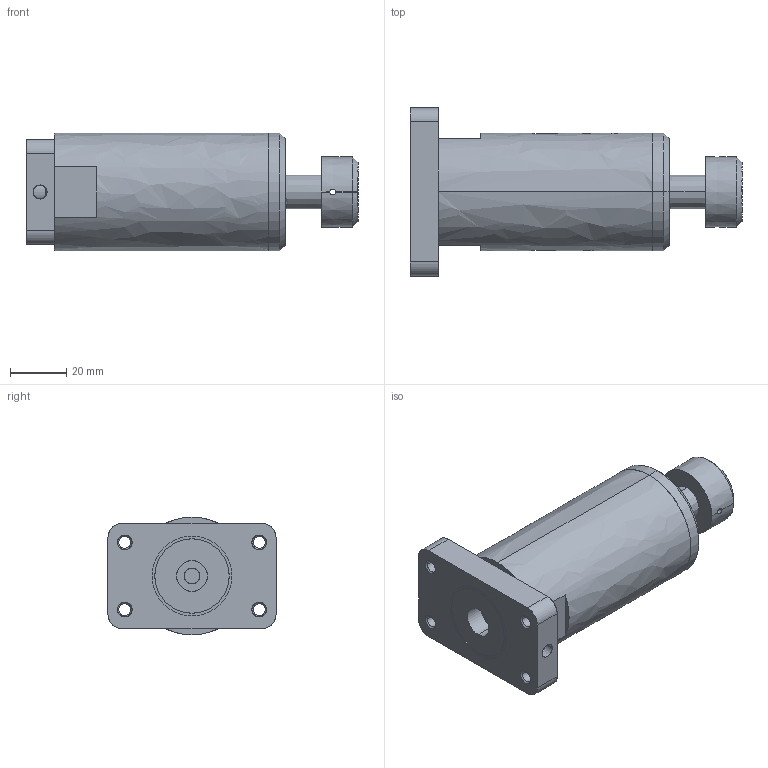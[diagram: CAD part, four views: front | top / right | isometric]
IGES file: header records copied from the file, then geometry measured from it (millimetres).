
Start section: SolidWorks IGES file using analytic representation for surfaces
Global section: file name: D:\IGS跡宒\AC4213.IGS,1; native system: 5HSolidWorks 2013; preprocessor: SolidWorks 2013; author: Administrator; date: 160406.152503; units: inch
Bounding box: 118.5 x 60 x 42 mm (x, y, z)
Surface area: 29220.9 mm2 (no closed solid volume)
Topology: 0 solids, 0 shells, 75 faces, 1704 edges, 1704 vertices
Faces by surface type: revolution 58, bspline 17
